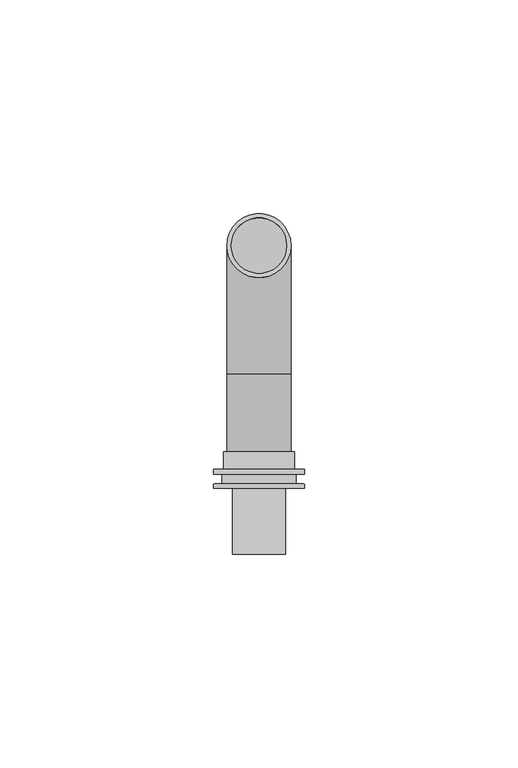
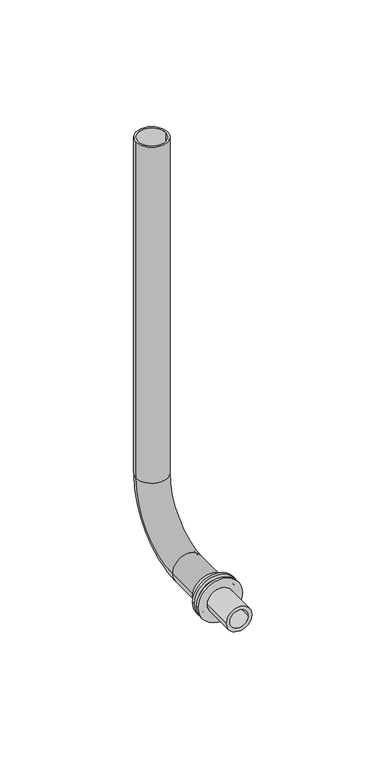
"""IFC4 building model written with IfcOpenShell, lengths in millimetres: pipe fitting geometry, RAUTITAN_Radiator WAG16 : RAUTITAN_Radiator WAG16."""

from ifc_helpers import new_model, si_unit, point, frame, origin, place, context, project, spatial, polyline, circle_curve, ellipse_curve, trimmed, source, transform, mapped, element, save
from ifc_brep_helpers import plane_surface, cylinder_surface, revolved_surface, advanced_brep


def pipe_fitting_12adc400(model_context):
    return source(origin(), model_context, "Body", "AdvancedBrep", [
        advanced_brep(
        [(8.3, -52.3, 0.0), (-8.3, -52.3, 0.0), (-8.3, -48.3, 0.0), (8.3, -48.3, 0.0), (10.7, -53.5, 0.0), (-10.7, -53.5, 0.0), (-10.7, -52.3, 0.0), (10.7, -52.3, 0.0), (8.7, -55.8, 0.0), (-8.7, -55.8, 0.0), (-8.7, -53.5, 0.0), (8.7, -53.5, 0.0), (10.7, -56.8, 0.0), (-10.7, -56.8, 0.0), (-10.7, -55.8, 0.0), (10.7, -55.8, 0.0), (6.2, -72.3, 0.0), (-6.2, -72.3, 0.0), (-6.2, -56.8, 0.0), (6.2, -56.8, 0.0), (4.4, -54.3, 0.0), (-4.4, -54.3, 0.0), (-4.4, -72.3, 0.0), (4.4, -72.3, 0.0), (7.5, -48.3, 0.0), (-7.5, -48.3, 0.0), (-7.5, -54.3, 0.0), (7.5, -54.3, 0.0)],
        [
            (0, 1, circle_curve(frame((0.0, -52.3, 0.0), z_axis=(0.0, 1.0, 0.0), x_axis=(-1.0, 0.0, 0.0)), 8.3)),
            (1, 2),
            (2, 3, circle_curve(frame((0.0, -48.3, 0.0), z_axis=(0.0, -1.0, 0.0), x_axis=(-1.0, 0.0, 0.0)), 8.3)),
            (3, 0),
            (4, 5, circle_curve(frame((0.0, -53.5, 0.0), z_axis=(0.0, 1.0, 0.0), x_axis=(-1.0, 0.0, 0.0)), 10.7)),
            (5, 6),
            (6, 7, circle_curve(frame((0.0, -52.3, 0.0), z_axis=(0.0, -1.0, 0.0), x_axis=(-1.0, 0.0, 0.0)), 10.7)),
            (7, 4),
            (8, 9, circle_curve(frame((0.0, -55.8, 0.0), z_axis=(0.0, 1.0, 0.0), x_axis=(-1.0, 0.0, 0.0)), 8.7)),
            (9, 10),
            (10, 11, circle_curve(frame((0.0, -53.5, 0.0), z_axis=(0.0, -1.0, 0.0), x_axis=(-1.0, 0.0, 0.0)), 8.7)),
            (11, 8),
            (12, 13, circle_curve(frame((0.0, -56.8, 0.0), z_axis=(0.0, 1.0, 0.0), x_axis=(-1.0, 0.0, 0.0)), 10.7)),
            (13, 14),
            (14, 15, circle_curve(frame((0.0, -55.8, 0.0), z_axis=(0.0, -1.0, 0.0), x_axis=(-1.0, 0.0, 0.0)), 10.7)),
            (15, 12),
            (16, 17, circle_curve(frame((0.0, -72.3, 0.0), z_axis=(0.0, 1.0, 0.0), x_axis=(-1.0, 0.0, 0.0)), 6.2)),
            (17, 18),
            (18, 19, circle_curve(frame((0.0, -56.8, 0.0), z_axis=(0.0, -1.0, 0.0), x_axis=(-1.0, 0.0, 0.0)), 6.2)),
            (19, 16),
            (20, 21, circle_curve(frame((0.0, -54.3, 0.0), z_axis=(0.0, 1.0, 0.0), x_axis=(-1.0, 0.0, 0.0)), 4.4)),
            (21, 22),
            (22, 23, circle_curve(frame((0.0, -72.3, 0.0), z_axis=(0.0, -1.0, 0.0), x_axis=(-1.0, 0.0, 0.0)), 4.4)),
            (23, 20),
            (24, 25, circle_curve(frame((0.0, -48.3, 0.0), z_axis=(0.0, 1.0, 0.0), x_axis=(-1.0, 0.0, 0.0)), 7.5)),
            (25, 26),
            (26, 27, circle_curve(frame((0.0, -54.3, 0.0), z_axis=(0.0, -1.0, 0.0), x_axis=(-1.0, 0.0, 0.0)), 7.5)),
            (27, 24),
            (2, 3, circle_curve(frame((0.0, -48.3, 0.0), z_axis=(0.0, 1.0, 0.0), x_axis=(1.0, 0.0, 0.0)), 8.3)),
            (24, 25, circle_curve(frame((0.0, -48.3, 0.0), z_axis=(0.0, -1.0, 0.0), x_axis=(1.0, 0.0, 0.0)), 7.5)),
            (1, 0, circle_curve(frame((0.0, -52.3, 0.0), z_axis=(0.0, 1.0, 0.0), x_axis=(1.0, 0.0, 0.0)), 8.3)),
            (6, 7, circle_curve(frame((0.0, -52.3, 0.0), z_axis=(0.0, 1.0, 0.0), x_axis=(1.0, 0.0, 0.0)), 10.7)),
            (5, 4, circle_curve(frame((0.0, -53.5, 0.0), z_axis=(0.0, 1.0, 0.0), x_axis=(1.0, 0.0, 0.0)), 10.7)),
            (10, 11, circle_curve(frame((0.0, -53.5, 0.0), z_axis=(0.0, 1.0, 0.0), x_axis=(1.0, 0.0, 0.0)), 8.7)),
            (9, 8, circle_curve(frame((0.0, -55.8, 0.0), z_axis=(0.0, 1.0, 0.0), x_axis=(1.0, 0.0, 0.0)), 8.7)),
            (14, 15, circle_curve(frame((0.0, -55.8, 0.0), z_axis=(0.0, 1.0, 0.0), x_axis=(1.0, 0.0, 0.0)), 10.7)),
            (13, 12, circle_curve(frame((0.0, -56.8, 0.0), z_axis=(0.0, 1.0, 0.0), x_axis=(1.0, 0.0, 0.0)), 10.7)),
            (18, 19, circle_curve(frame((0.0, -56.8, 0.0), z_axis=(0.0, 1.0, 0.0), x_axis=(1.0, 0.0, 0.0)), 6.2)),
            (17, 16, circle_curve(frame((0.0, -72.3, 0.0), z_axis=(0.0, 1.0, 0.0), x_axis=(1.0, 0.0, 0.0)), 6.2)),
            (22, 23, circle_curve(frame((0.0, -72.3, 0.0), z_axis=(0.0, 1.0, 0.0), x_axis=(1.0, 0.0, 0.0)), 4.4)),
            (21, 20, circle_curve(frame((0.0, -54.3, 0.0), z_axis=(0.0, 1.0, 0.0), x_axis=(1.0, 0.0, 0.0)), 4.4)),
            (26, 27, circle_curve(frame((0.0, -54.3, 0.0), z_axis=(0.0, 1.0, 0.0), x_axis=(1.0, 0.0, 0.0)), 7.5)),
        ],
        [
            cylinder_surface(frame((0.0, -54.3, 0.0), z_axis=(0.0, -1.0, 0.0), x_axis=(-1.0, 0.0, 0.0)), 8.3),
            cylinder_surface(frame((0.0, -54.3, 0.0), z_axis=(0.0, -1.0, 0.0), x_axis=(-1.0, 0.0, 0.0)), 10.7),
            cylinder_surface(frame((0.0, -54.3, 0.0), z_axis=(0.0, -1.0, 0.0), x_axis=(-1.0, 0.0, 0.0)), 8.7),
            cylinder_surface(frame((0.0, -54.3, 0.0), z_axis=(0.0, -1.0, 0.0), x_axis=(-1.0, 0.0, 0.0)), 6.2),
            revolved_surface(polyline([(-4.4, -72.3, 0.0), (-4.4, -54.3, 0.0)]), (0.0, -54.3, 0.0), (0.0, -1.0, 0.0)),
            revolved_surface(polyline([(-7.5, -54.3, 0.0), (-7.5, -48.3, 0.0)]), (0.0, -54.3, 0.0), (0.0, -1.0, 0.0)),
            plane_surface(frame((0.0, -48.3, 0.0), z_axis=(0.0, 1.0, 0.0), x_axis=(1.0, 0.0, 0.0))),
            cylinder_surface(frame((0.0, -54.3, 0.0), z_axis=(0.0, -1.0, 0.0), x_axis=(1.0, 0.0, 0.0)), 8.3),
            plane_surface(frame((0.0, -52.3, 0.0), z_axis=(0.0, 1.0, 0.0), x_axis=(1.0, 0.0, 0.0))),
            cylinder_surface(frame((0.0, -54.3, 0.0), z_axis=(0.0, -1.0, 0.0), x_axis=(1.0, 0.0, 0.0)), 10.7),
            plane_surface(frame((0.0, -53.5, 0.0), z_axis=(0.0, -1.0, 0.0), x_axis=(1.0, 0.0, 0.0))),
            cylinder_surface(frame((0.0, -54.3, 0.0), z_axis=(0.0, -1.0, 0.0), x_axis=(1.0, 0.0, 0.0)), 8.7),
            plane_surface(frame((0.0, -55.8, 0.0), z_axis=(0.0, 1.0, 0.0), x_axis=(1.0, 0.0, 0.0))),
            plane_surface(frame((0.0, -56.8, 0.0), z_axis=(0.0, -1.0, 0.0), x_axis=(1.0, 0.0, 0.0))),
            cylinder_surface(frame((0.0, -54.3, 0.0), z_axis=(0.0, -1.0, 0.0), x_axis=(1.0, 0.0, 0.0)), 6.2),
            plane_surface(frame((0.0, -72.3, 0.0), z_axis=(0.0, -1.0, 0.0), x_axis=(1.0, 0.0, 0.0))),
            revolved_surface(polyline([(4.4, -72.3, 0.0), (4.4, -54.3, 0.0)]), (0.0, -54.3, 0.0), (0.0, -1.0, 0.0)),
            plane_surface(frame((0.0, -54.3, 0.0), z_axis=(0.0, 1.0, 0.0), x_axis=(1.0, 0.0, 0.0))),
            revolved_surface(polyline([(7.5, -54.3, 0.0), (7.5, -48.3, 0.0)]), (0.0, -54.3, 0.0), (0.0, -1.0, 0.0)),
        ],
        [
            (0, [[1, 2, 3, 4]]),
            (1, [[5, 6, 7, 8]]),
            (2, [[9, 10, 11, 12]]),
            (1, [[13, 14, 15, 16]]),
            (3, [[17, 18, 19, 20]]),
            (4, [[21, 22, 23, 24]]),
            (5, [[25, 26, 27, 28]]),
            (6, [[29, -3], [30, -25]]),
            (7, [[31, -4, -29, -2]]),
            (8, [[32, -7], [-31, -1]]),
            (9, [[33, -8, -32, -6]]),
            (10, [[-33, -5], [34, -11]]),
            (11, [[35, -12, -34, -10]]),
            (12, [[36, -15], [-35, -9]]),
            (9, [[37, -16, -36, -14]]),
            (13, [[-37, -13], [38, -19]]),
            (14, [[39, -20, -38, -18]]),
            (15, [[-39, -17], [40, -23]]),
            (16, [[41, -24, -40, -22]]),
            (17, [[42, -27], [-41, -21]]),
            (18, [[-30, -28, -42, -26]]),
        ],
    ),
        advanced_brep(
        [(-7.5, 0.0, 200.0), (7.5, 0.0, 200.0), (-6.5, 0.0, 200.0), (6.5, 0.0, 200.0), (-7.5, 0.0, 30.0), (7.5, 0.0, 30.0), (-6.5, 0.0, 30.0), (6.5, 0.0, 30.0), (7.5, -30.0, 0.0), (-7.5, -30.0, 0.0), (6.5, -30.0, 0.0), (-6.5, -30.0, 0.0), (-7.5, -54.3, 0.0), (7.5, -54.3, 0.0), (-6.5, -54.3, 0.0), (6.5, -54.3, 0.0)],
        [
            (0, 1, circle_curve(frame((0.0, 0.0, 200.0), z_axis=(0.0, 0.0, 1.0), x_axis=(1.0, 0.0, 0.0)), 7.5)),
            (1, 0, circle_curve(frame((0.0, 0.0, 200.0), z_axis=(0.0, 0.0, 1.0), x_axis=(1.0, 0.0, 0.0)), 7.5)),
            (2, 3, circle_curve(frame((0.0, 0.0, 200.0), z_axis=(0.0, 0.0, -1.0), x_axis=(1.0, 0.0, 0.0)), 6.5)),
            (3, 2, circle_curve(frame((0.0, 0.0, 200.0), z_axis=(0.0, 0.0, -1.0), x_axis=(1.0, 0.0, 0.0)), 6.5)),
            (0, 4),
            (4, 5, circle_curve(frame((0.0, 0.0, 30.0), z_axis=(0.0, 0.0, 1.0), x_axis=(1.0, 0.0, 0.0)), 7.5)),
            (5, 1),
            (5, 4, circle_curve(frame((0.0, 0.0, 30.0), z_axis=(0.0, 0.0, 1.0), x_axis=(1.0, 0.0, 0.0)), 7.5)),
            (2, 6),
            (6, 7, circle_curve(frame((0.0, 0.0, 30.0), z_axis=(0.0, 0.0, -1.0), x_axis=(1.0, 0.0, 0.0)), 6.5)),
            (7, 3),
            (7, 6, circle_curve(frame((0.0, 0.0, 30.0), z_axis=(0.0, 0.0, -1.0), x_axis=(1.0, 0.0, 0.0)), 6.5)),
            (8, 5, circle_curve(frame((7.5, -30.0, 30.0), z_axis=(1.0, 0.0, 0.0), x_axis=(0.0, 1.0, 0.0)), 30.0)),
            (4, 9, circle_curve(frame((-7.5, -30.0, 30.0), z_axis=(-1.0, 0.0, 0.0), x_axis=(0.0, 1.0, 0.0)), 30.0)),
            (9, 8, circle_curve(frame((0.0, -30.0, 0.0), z_axis=(0.0, 1.0, 0.0), x_axis=(1.0, 0.0, 0.0)), 7.5)),
            (8, 9, circle_curve(frame((0.0, -30.0, 0.0), z_axis=(0.0, 1.0, 0.0), x_axis=(1.0, 0.0, 0.0)), 7.5)),
            (10, 7, circle_curve(frame((6.5, -30.0, 30.0), z_axis=(1.0, 0.0, 0.0), x_axis=(0.0, 1.0, 0.0)), 30.0)),
            (6, 11, circle_curve(frame((-6.5, -30.0, 30.0), z_axis=(-1.0, 0.0, 0.0), x_axis=(0.0, 1.0, 0.0)), 30.0)),
            (11, 10, circle_curve(frame((0.0, -30.0, 0.0), z_axis=(0.0, -1.0, 0.0), x_axis=(1.0, 0.0, 0.0)), 6.5)),
            (10, 11, circle_curve(frame((0.0, -30.0, 0.0), z_axis=(0.0, -1.0, 0.0), x_axis=(1.0, 0.0, 0.0)), 6.5)),
            (12, 13, circle_curve(frame((0.0, -54.3, 0.0), z_axis=(0.0, -1.0, 0.0), x_axis=(1.0, 0.0, 0.0)), 7.5)),
            (13, 12, circle_curve(frame((0.0, -54.3, 0.0), z_axis=(0.0, -1.0, 0.0), x_axis=(1.0, 0.0, 0.0)), 7.5)),
            (14, 15, circle_curve(frame((0.0, -54.3, 0.0), z_axis=(0.0, 1.0, 0.0), x_axis=(1.0, 0.0, 0.0)), 6.5)),
            (15, 14, circle_curve(frame((0.0, -54.3, 0.0), z_axis=(0.0, 1.0, 0.0), x_axis=(1.0, 0.0, 0.0)), 6.5)),
            (9, 12),
            (13, 8),
            (11, 14),
            (15, 10),
        ],
        [
            plane_surface(frame((0.0, 0.0, 200.0), z_axis=(0.0, 0.0, 1.0), x_axis=(1.0, 0.0, 0.0))),
            cylinder_surface(frame((0.0, 0.0, 200.0), z_axis=(0.0, 0.0, 1.0), x_axis=(1.0, 0.0, 0.0)), 7.5),
            revolved_surface(polyline([(6.5, 0.0, 30.0), (6.5, 0.0, 200.0)]), (0.0, 0.0, 200.0), (0.0, 0.0, -1.0)),
            revolved_surface(trimmed(ellipse_curve(frame((0.0, 0.0, 30.0), z_axis=(0.0, 0.0, 1.0), x_axis=(1.0, 0.0, 0.0)), 7.5, 7.5), [point((-7.5, 0.0, 30.0))], [point((7.5, 0.0, 30.0))], True, "CARTESIAN"), (0.0, -30.0, 30.0), (-1.0, 0.0, 0.0)),
            revolved_surface(trimmed(ellipse_curve(frame((0.0, 0.0, 30.0), z_axis=(0.0, 0.0, 1.0), x_axis=(1.0, 0.0, 0.0)), 7.5, 7.5), [point((7.5, 0.0, 30.0))], [point((-7.5, 0.0, 30.0))], True, "CARTESIAN"), (0.0, -30.0, 30.0), (-1.0, 0.0, 0.0)),
            revolved_surface(trimmed(ellipse_curve(frame((0.0, 0.0, 30.0), z_axis=(0.0, 0.0, -1.0), x_axis=(1.0, 0.0, 0.0)), 6.5, 6.5), [point((-6.5, 0.0, 30.0))], [point((6.5, 0.0, 30.0))], True, "CARTESIAN"), (0.0, -30.0, 30.0), (-1.0, 0.0, 0.0)),
            revolved_surface(trimmed(ellipse_curve(frame((0.0, 0.0, 30.0), z_axis=(0.0, 0.0, -1.0), x_axis=(1.0, 0.0, 0.0)), 6.5, 6.5), [point((6.5, 0.0, 30.0))], [point((-6.5, 0.0, 30.0))], True, "CARTESIAN"), (0.0, -30.0, 30.0), (-1.0, 0.0, 0.0)),
            plane_surface(frame((0.0, -54.3, 0.0), z_axis=(0.0, -1.0, 0.0), x_axis=(1.0, 0.0, 0.0))),
            cylinder_surface(frame((0.0, -30.0, 0.0), z_axis=(0.0, 1.0, 0.0), x_axis=(1.0, 0.0, 0.0)), 7.5),
            revolved_surface(polyline([(6.5, -54.3, 0.0), (6.5, -30.0, 0.0)]), (0.0, -30.0, 0.0), (0.0, -1.0, 0.0)),
        ],
        [
            (0, [[1, 2], [3, 4]]),
            (1, [[-1, 5, 6, 7]]),
            (1, [[-2, -7, 8, -5]]),
            (2, [[-3, 9, 10, 11]]),
            (2, [[-4, -11, 12, -9]]),
            (3, [[13, -6, 14, 15]]),
            (4, [[-14, -8, -13, 16]]),
            (5, [[17, -10, 18, 19]]),
            (6, [[-18, -12, -17, 20]]),
            (7, [[21, 22], [23, 24]]),
            (8, [[-15, 25, -22, 26]]),
            (8, [[-16, -26, -21, -25]]),
            (9, [[-19, 27, -24, 28]]),
            (9, [[-20, -28, -23, -27]]),
        ],
    ),
    ])


if __name__ == "__main__":
    model = new_model("IFC4")
    model_context = context("Model", 3, world=origin())
    ifc_project = project(units=[si_unit("LENGTHUNIT", "METRE", prefix="MILLI")], contexts=[model_context])
    site = spatial("IfcSite", under=ifc_project)
    building = spatial("IfcBuilding", under=site)
    placement = place(None, origin())
    pipe_fitting_shape = pipe_fitting_12adc400(model_context)
    element("IfcPipeFitting", 1, ObjectType="RAUTITAN_Radiator WAG16 : RAUTITAN_Radiator WAG16", at=placement, inside=building, context=model_context, shape_type="MappedRepresentation", body=[
        mapped(pipe_fitting_shape, transform((0.0, 0.0, 0.0), x_axis=(1.0, 0.0, 0.0), y_axis=(0.0, 1.0, 0.0), z_axis=(0.0, 0.0, 1.0))),
    ])
    save(model, "model.ifc")
